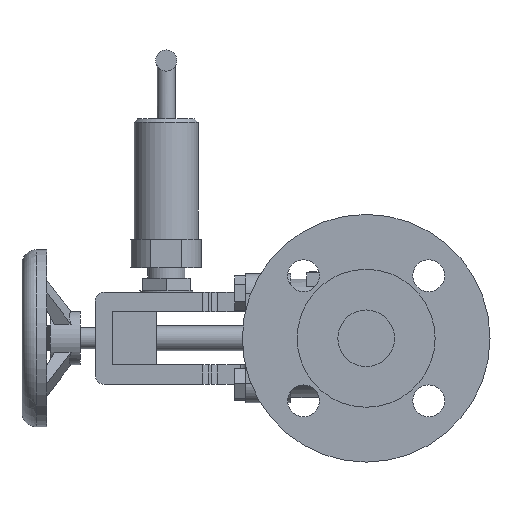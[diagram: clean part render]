
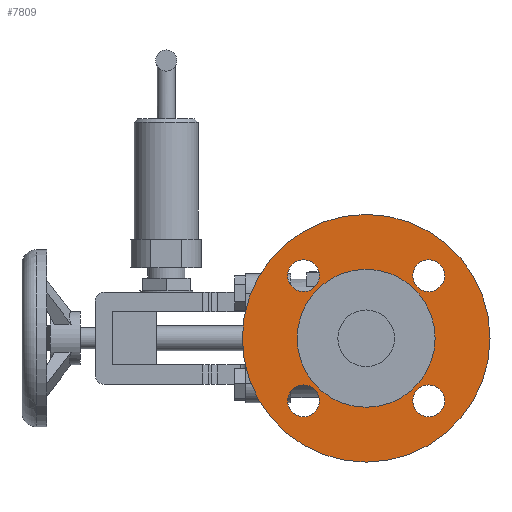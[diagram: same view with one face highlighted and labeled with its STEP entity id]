
A CAD part, left-side view. The second image highlights one B-rep face of the part: STEP entity #7809.
In plain terms, the highlighted planar face has unit normal (-1, 0, 0).
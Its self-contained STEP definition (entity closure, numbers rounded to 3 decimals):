
#355=PLANE('',#8330);
#406=FACE_BOUND('',#1415,.T.);
#407=FACE_BOUND('',#1416,.T.);
#408=FACE_BOUND('',#1417,.T.);
#409=FACE_BOUND('',#1418,.T.);
#410=FACE_BOUND('',#1419,.T.);
#974=FACE_OUTER_BOUND('',#1414,.T.);
#1414=EDGE_LOOP('',(#6870));
#1415=EDGE_LOOP('',(#6871));
#1416=EDGE_LOOP('',(#6872));
#1417=EDGE_LOOP('',(#6873));
#1418=EDGE_LOOP('',(#6874));
#1419=EDGE_LOOP('',(#6875));
#3026=CIRCLE('',#8261,70.);
#3029=CIRCLE('',#8265,9.);
#3031=CIRCLE('',#8268,9.);
#3033=CIRCLE('',#8271,9.);
#3035=CIRCLE('',#8274,9.);
#3036=CIRCLE('',#8276,39.);
#3702=VERTEX_POINT('',#13419);
#3705=VERTEX_POINT('',#13427);
#3707=VERTEX_POINT('',#13433);
#3709=VERTEX_POINT('',#13439);
#3711=VERTEX_POINT('',#13445);
#3712=VERTEX_POINT('',#13449);
#4719=EDGE_CURVE('',#3702,#3702,#3026,.T.);
#4724=EDGE_CURVE('',#3705,#3705,#3029,.T.);
#4727=EDGE_CURVE('',#3707,#3707,#3031,.T.);
#4730=EDGE_CURVE('',#3709,#3709,#3033,.T.);
#4733=EDGE_CURVE('',#3711,#3711,#3035,.T.);
#4734=EDGE_CURVE('',#3712,#3712,#3036,.T.);
#6870=ORIENTED_EDGE('',*,*,#4719,.F.);
#6871=ORIENTED_EDGE('',*,*,#4727,.F.);
#6872=ORIENTED_EDGE('',*,*,#4730,.F.);
#6873=ORIENTED_EDGE('',*,*,#4733,.F.);
#6874=ORIENTED_EDGE('',*,*,#4724,.F.);
#6875=ORIENTED_EDGE('',*,*,#4734,.F.);
#7809=ADVANCED_FACE('',(#974,#406,#407,#408,#409,#410),#355,.F.);
#8261=AXIS2_PLACEMENT_3D('',#13420,#9826,#9827);
#8265=AXIS2_PLACEMENT_3D('',#13429,#9836,#9837);
#8268=AXIS2_PLACEMENT_3D('',#13435,#9843,#9844);
#8271=AXIS2_PLACEMENT_3D('',#13441,#9850,#9851);
#8274=AXIS2_PLACEMENT_3D('',#13447,#9857,#9858);
#8276=AXIS2_PLACEMENT_3D('',#13450,#9861,#9862);
#8330=AXIS2_PLACEMENT_3D('',#13600,#10030,#10031);
#9826=DIRECTION('center_axis',(1.,0.,0.));
#9827=DIRECTION('ref_axis',(0.,0.,-1.));
#9836=DIRECTION('center_axis',(-1.,0.,0.));
#9837=DIRECTION('ref_axis',(0.,0.,-1.));
#9843=DIRECTION('center_axis',(-1.,0.,0.));
#9844=DIRECTION('ref_axis',(0.,0.,-1.));
#9850=DIRECTION('center_axis',(-1.,0.,0.));
#9851=DIRECTION('ref_axis',(0.,0.,-1.));
#9857=DIRECTION('center_axis',(-1.,0.,0.));
#9858=DIRECTION('ref_axis',(0.,0.,-1.));
#9861=DIRECTION('center_axis',(-1.,0.,0.));
#9862=DIRECTION('ref_axis',(0.,1.,0.));
#10030=DIRECTION('center_axis',(1.,0.,0.));
#10031=DIRECTION('ref_axis',(0.,0.,-1.));
#13419=CARTESIAN_POINT('',(-127.739,-59.337,23.5));
#13420=CARTESIAN_POINT('Origin',(-127.739,-59.337,-46.5));
#13427=CARTESIAN_POINT('',(-127.739,-23.981,-72.855));
#13429=CARTESIAN_POINT('Origin',(-127.739,-23.981,-81.855));
#13433=CARTESIAN_POINT('',(-127.739,-94.692,-72.855));
#13435=CARTESIAN_POINT('Origin',(-127.739,-94.692,-81.855));
#13439=CARTESIAN_POINT('',(-127.739,-23.981,-2.145));
#13441=CARTESIAN_POINT('Origin',(-127.739,-23.981,-11.145));
#13445=CARTESIAN_POINT('',(-127.739,-94.692,-2.145));
#13447=CARTESIAN_POINT('Origin',(-127.739,-94.692,-11.145));
#13449=CARTESIAN_POINT('',(-127.739,-98.337,-46.5));
#13450=CARTESIAN_POINT('Origin',(-127.739,-59.337,-46.5));
#13600=CARTESIAN_POINT('Origin',(-127.739,-4.837,-46.5));
